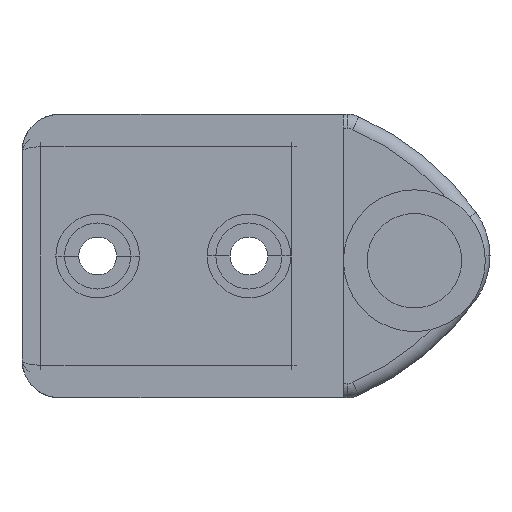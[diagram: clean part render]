
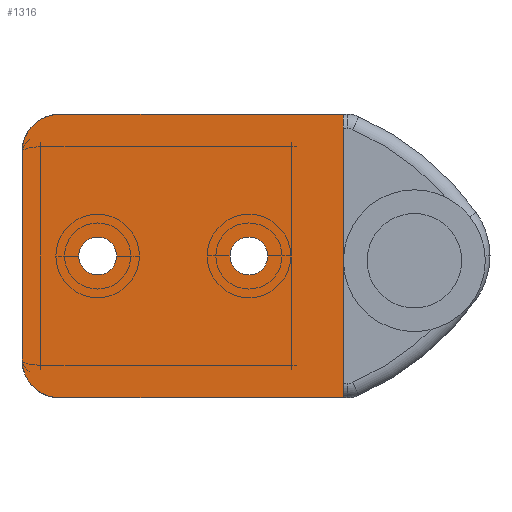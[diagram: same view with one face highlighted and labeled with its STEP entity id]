
A CAD part, front view. The second image highlights one B-rep face of the part: STEP entity #1316.
In plain terms, the highlighted planar face has unit normal (0, -1, 0).
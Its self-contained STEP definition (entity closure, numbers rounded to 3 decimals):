
#22 = AXIS2_PLACEMENT_3D ( 'NONE', #3574, #3575, #3577 ) ;
#73 = AXIS2_PLACEMENT_3D ( 'NONE', #2596, #2595, #2594 ) ;
#77 = AXIS2_PLACEMENT_3D ( 'NONE', #2622, #2621, #2620 ) ;
#125 = CIRCLE ( 'NONE', #73, 2. ) ;
#134 = CIRCLE ( 'NONE', #77, 2. ) ;
#226 = FACE_OUTER_BOUND ( 'NONE', #426, .T. ) ;
#227 = FACE_BOUND ( 'NONE', #963, .T. ) ;
#228 = FACE_BOUND ( 'NONE', #960, .T. ) ;
#330 = VECTOR ( 'NONE', #2208, 1000. ) ;
#393 = LINE ( 'NONE', #2126, #430 ) ;
#408 = LINE ( 'NONE', #2209, #330 ) ;
#421 = ORIENTED_EDGE ( 'NONE', *, *, #1173, .T. ) ;
#426 = EDGE_LOOP ( 'NONE', ( #421, #434, #435, #438, #448, #445 ) ) ;
#430 = VECTOR ( 'NONE', #2125, 1000. ) ;
#431 = ORIENTED_EDGE ( 'NONE', *, *, #3143, .F. ) ;
#434 = ORIENTED_EDGE ( 'NONE', *, *, #1148, .T. ) ;
#435 = ORIENTED_EDGE ( 'NONE', *, *, #1155, .T. ) ;
#438 = ORIENTED_EDGE ( 'NONE', *, *, #1163, .T. ) ;
#445 = ORIENTED_EDGE ( 'NONE', *, *, #1221, .T. ) ;
#448 = ORIENTED_EDGE ( 'NONE', *, *, #1167, .T. ) ;
#464 = CIRCLE ( 'NONE', #1030, 2. ) ;
#466 = CIRCLE ( 'NONE', #1031, 2. ) ;
#472 = VECTOR ( 'NONE', #1966, 1000. ) ;
#474 = LINE ( 'NONE', #1967, #472 ) ;
#525 = CIRCLE ( 'NONE', #1085, 4. ) ;
#598 = ORIENTED_EDGE ( 'NONE', *, *, #1224, .F. ) ;
#600 = ORIENTED_EDGE ( 'NONE', *, *, #1223, .F. ) ;
#601 = ORIENTED_EDGE ( 'NONE', *, *, #3135, .F. ) ;
#734 = CIRCLE ( 'NONE', #1079, 4. ) ;
#738 = LINE ( 'NONE', #2142, #740 ) ;
#740 = VECTOR ( 'NONE', #2141, 1000. ) ;
#960 = EDGE_LOOP ( 'NONE', ( #601, #600 ) ) ;
#963 = EDGE_LOOP ( 'NONE', ( #431, #598 ) ) ;
#1030 = AXIS2_PLACEMENT_3D ( 'NONE', #1959, #1958, #1957 ) ;
#1031 = AXIS2_PLACEMENT_3D ( 'NONE', #1962, #1961, #1960 ) ;
#1079 = AXIS2_PLACEMENT_3D ( 'NONE', #2153, #2151, #2150 ) ;
#1085 = AXIS2_PLACEMENT_3D ( 'NONE', #2236, #2235, #2233 ) ;
#1148 = EDGE_CURVE ( 'NONE', #2501, #2505, #525, .T. ) ;
#1155 = EDGE_CURVE ( 'NONE', #2505, #2521, #408, .T. ) ;
#1163 = EDGE_CURVE ( 'NONE', #2521, #2518, #734, .T. ) ;
#1167 = EDGE_CURVE ( 'NONE', #2518, #2486, #738, .T. ) ;
#1173 = EDGE_CURVE ( 'NONE', #2513, #2501, #393, .T. ) ;
#1221 = EDGE_CURVE ( 'NONE', #2486, #2513, #474, .T. ) ;
#1223 = EDGE_CURVE ( 'NONE', #2469, #2514, #466, .T. ) ;
#1224 = EDGE_CURVE ( 'NONE', #2497, #2477, #464, .T. ) ;
#1316 = ADVANCED_FACE ( 'NONE', ( #228, #227, #226 ), #3591, .T. ) ;
#1957 = DIRECTION ( 'NONE',  ( 1., 0., 0. ) ) ;
#1958 = DIRECTION ( 'NONE',  ( 0., -1., 0. ) ) ;
#1959 = CARTESIAN_POINT ( 'NONE',  ( -33.5, 647., 0.5 ) ) ;
#1960 = DIRECTION ( 'NONE',  ( 1., 0., 0. ) ) ;
#1961 = DIRECTION ( 'NONE',  ( 0., -1., 0. ) ) ;
#1962 = CARTESIAN_POINT ( 'NONE',  ( -17.5, 647., 0.5 ) ) ;
#1966 = DIRECTION ( 'NONE',  ( 0., 0., 1. ) ) ;
#1967 = CARTESIAN_POINT ( 'NONE',  ( -7.5, 647., 15.5 ) ) ;
#2125 = DIRECTION ( 'NONE',  ( -1., 0., 0. ) ) ;
#2126 = CARTESIAN_POINT ( 'NONE',  ( -37.5, 647., 15.5 ) ) ;
#2141 = DIRECTION ( 'NONE',  ( 1., 0., 0. ) ) ;
#2142 = CARTESIAN_POINT ( 'NONE',  ( -7.5, 647., -14.5 ) ) ;
#2150 = DIRECTION ( 'NONE',  ( 1., 0., 0. ) ) ;
#2151 = DIRECTION ( 'NONE',  ( 0., -1., 0. ) ) ;
#2153 = CARTESIAN_POINT ( 'NONE',  ( -37.5, 647., -10.5 ) ) ;
#2208 = DIRECTION ( 'NONE',  ( 0., 0., -1. ) ) ;
#2209 = CARTESIAN_POINT ( 'NONE',  ( -41.5, 647., -10.5 ) ) ;
#2233 = DIRECTION ( 'NONE',  ( 1., 0., 0. ) ) ;
#2235 = DIRECTION ( 'NONE',  ( 0., -1., 0. ) ) ;
#2236 = CARTESIAN_POINT ( 'NONE',  ( -37.5, 647., 11.5 ) ) ;
#2469 = VERTEX_POINT ( 'NONE', #2717 ) ;
#2477 = VERTEX_POINT ( 'NONE', #2708 ) ;
#2486 = VERTEX_POINT ( 'NONE', #2699 ) ;
#2497 = VERTEX_POINT ( 'NONE', #2688 ) ;
#2501 = VERTEX_POINT ( 'NONE', #2684 ) ;
#2505 = VERTEX_POINT ( 'NONE', #2680 ) ;
#2513 = VERTEX_POINT ( 'NONE', #2672 ) ;
#2514 = VERTEX_POINT ( 'NONE', #2671 ) ;
#2518 = VERTEX_POINT ( 'NONE', #2667 ) ;
#2521 = VERTEX_POINT ( 'NONE', #2664 ) ;
#2594 = DIRECTION ( 'NONE',  ( 1., 0., 0. ) ) ;
#2595 = DIRECTION ( 'NONE',  ( 0., -1., 0. ) ) ;
#2596 = CARTESIAN_POINT ( 'NONE',  ( -33.5, 647., 0.5 ) ) ;
#2620 = DIRECTION ( 'NONE',  ( 1., 0., 0. ) ) ;
#2621 = DIRECTION ( 'NONE',  ( 0., -1., 0. ) ) ;
#2622 = CARTESIAN_POINT ( 'NONE',  ( -17.5, 647., 0.5 ) ) ;
#2664 = CARTESIAN_POINT ( 'NONE',  ( -41.5, 647., -10.5 ) ) ;
#2667 = CARTESIAN_POINT ( 'NONE',  ( -37.5, 647., -14.5 ) ) ;
#2671 = CARTESIAN_POINT ( 'NONE',  ( -19.5, 647., 0.5 ) ) ;
#2672 = CARTESIAN_POINT ( 'NONE',  ( -7.5, 647., 15.5 ) ) ;
#2680 = CARTESIAN_POINT ( 'NONE',  ( -41.5, 647., 11.5 ) ) ;
#2684 = CARTESIAN_POINT ( 'NONE',  ( -37.5, 647., 15.5 ) ) ;
#2688 = CARTESIAN_POINT ( 'NONE',  ( -31.5, 647., 0.5 ) ) ;
#2699 = CARTESIAN_POINT ( 'NONE',  ( -7.5, 647., -14.5 ) ) ;
#2708 = CARTESIAN_POINT ( 'NONE',  ( -35.5, 647., 0.5 ) ) ;
#2717 = CARTESIAN_POINT ( 'NONE',  ( -15.5, 647., 0.5 ) ) ;
#3135 = EDGE_CURVE ( 'NONE', #2514, #2469, #134, .T. ) ;
#3143 = EDGE_CURVE ( 'NONE', #2477, #2497, #125, .T. ) ;
#3574 = CARTESIAN_POINT ( 'NONE',  ( -37.5, 647., -10.5 ) ) ;
#3575 = DIRECTION ( 'NONE',  ( 0., -1., 0. ) ) ;
#3577 = DIRECTION ( 'NONE',  ( 1., 0., 0. ) ) ;
#3591 = PLANE ( 'NONE',  #22 ) ;
